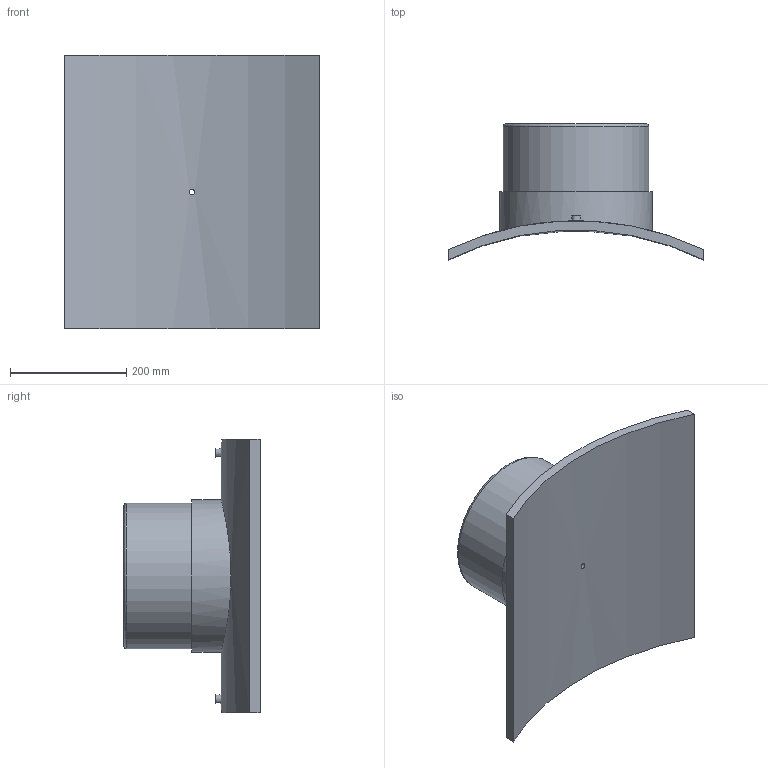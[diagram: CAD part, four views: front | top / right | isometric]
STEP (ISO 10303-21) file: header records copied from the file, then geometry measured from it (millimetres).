
FILE_DESCRIPTION(/* description */ ('PLASSON BRANCH SADDLE 1000x250'),/* implementation_level */ '2;1');
FILE_NAME(/* name */ 'C:\Dropbox\KIMPROJECTS-Inventor 2019\99-16-3568-Processing\ElectroFusion Fittings\495803\stp\4958031000250T.stp',/* time_stamp */ '2024-04-04T11:47:54+02:00',/* author */ ('KIM'),/* organization */ (''),/* preprocessor_version */ 'ST-DEVELOPER v17.2',/* originating_system */ 'Autodesk Inventor 2019',/* authorisation */ '');
FILE_SCHEMA (('AUTOMOTIVE_DESIGN { 1 0 10303 214 3 1 1 }'));
Length unit declared in the file: millimetre
Products named in the file (1): 4958031000250T
Bounding box: 440 x 234 x 470 mm (x, y, z)
Volume: 6779972.3 mm3; surface area: 712816.2 mm2
Topology: 1 solids, 1 shells, 29 faces, 60 edges, 43 vertices
Faces by surface type: plane 13, cylinder 12, torus 2, cone 2
Full cylindrical faces by diameter (mm): 4 x2, 9.6 x1, 10 x2, 16 x1, 200 x1, 250 x1, 262.5 x1
Entity records: 1086 total; most frequent: CARTESIAN_POINT 400, DIRECTION 139, ORIENTED_EDGE 120, EDGE_CURVE 60, AXIS2_PLACEMENT_3D 60, VERTEX_POINT 43, EDGE_LOOP 41, CIRCLE 30
